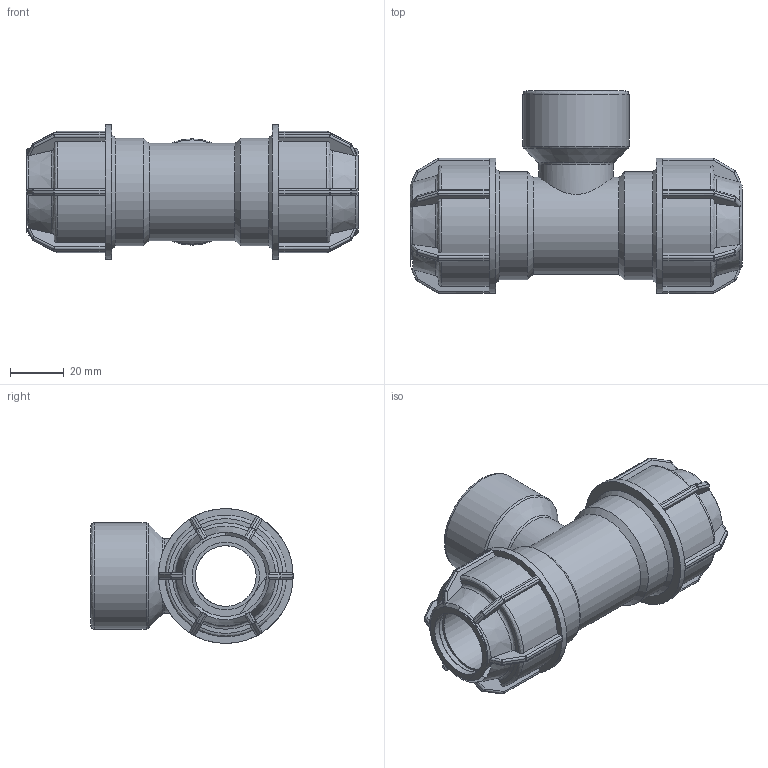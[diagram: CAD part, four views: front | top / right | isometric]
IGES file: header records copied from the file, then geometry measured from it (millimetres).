
Global section: file name: 141400025010.ipt; native system: Autodesk Inventor 2015; preprocessor: unknown; author: KIM; date: 20180416.111605; units: millimetre
Bounding box: 123 x 75 x 50 mm (x, y, z)
Volume: 112555.4 mm3; surface area: 38034.5 mm2
Topology: 1 solids, 1 shells, 412 faces, 1007 edges, 589 vertices
Faces by surface type: plane 194, cylinder 115, sphere 48, revolution 38, cone 17
Full cylindrical faces by diameter (mm): 27.565 x1, 36 x1, 39.378 x1, 40 x2, 50 x2
